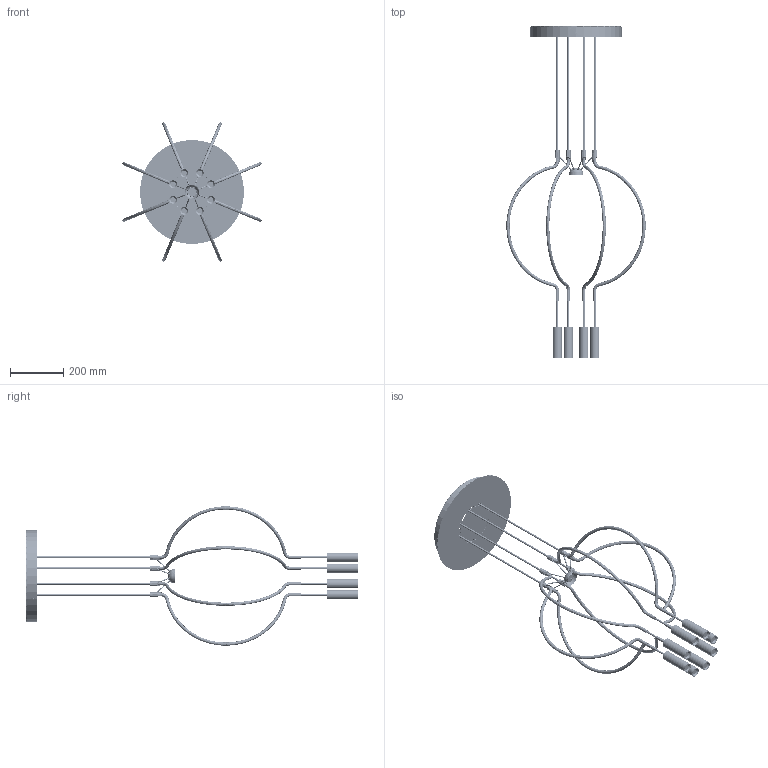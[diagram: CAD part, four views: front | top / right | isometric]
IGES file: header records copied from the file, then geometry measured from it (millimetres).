
Start section: SolidWorks IGES file using analytic representation for surfaces
Global section: file name: \\STORAGE\Tecnico Condiviso\10 NUOVI PROGETTI IN SVILUPPO\NUOVI PROGETTI AXO\AXO058 LIAISON\DRAW\3D\wetransfer-f940a2\1.0A.AXO01.LS04.A1\SPLIAIP8XXXXLED-PER 3D.IGS; native system: SolidWorks 2018; preprocessor: SolidWorks 2018; author: tecnico3; date: 180924.090259; units: millimetre
Bounding box: 522.87 x 1245.71 x 522.87 mm (x, y, z)
Surface area: 1449449.6 mm2 (no closed solid volume)
Topology: 0 solids, 0 shells, 1780 faces, 42780 edges, 42768 vertices
Faces by surface type: revolution 1086, bspline 694
